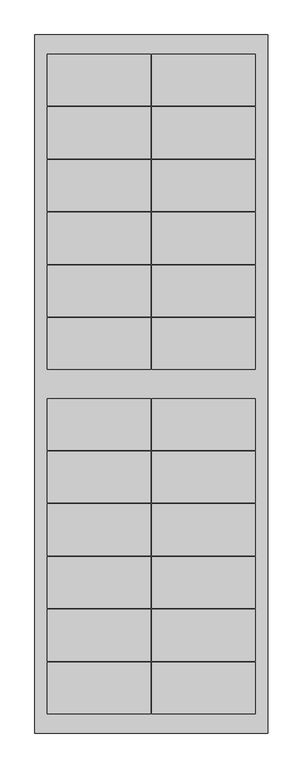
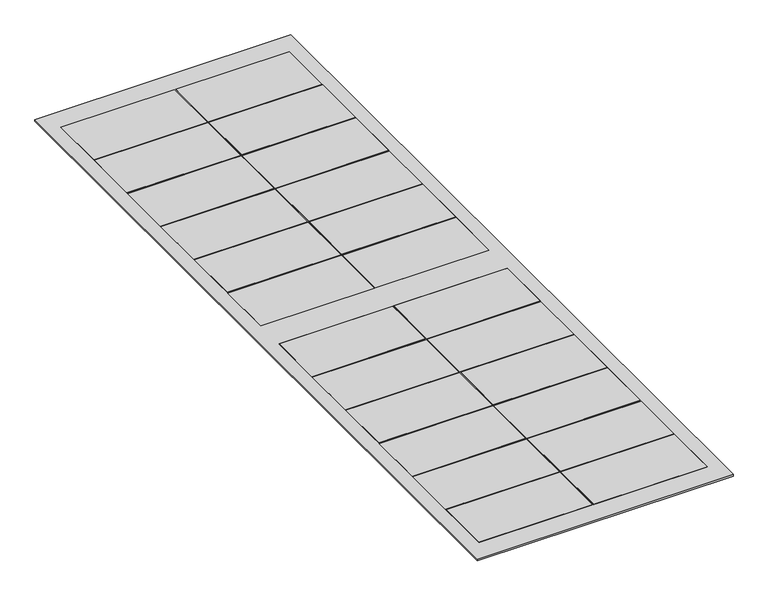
"""IFC4 building model written with IfcOpenShell, lengths in millimetres: proxy geometry, Construction-Roof_Roofit-Solar_nu-click-t-2x12-120-sg : NuClick T-2x12/120 Snowguard."""

from ifc_helpers import new_model, si_unit, origin, origin_with_axes, place, context, project, spatial, polyline, outline, extrude, source, transform, mapped, element, save


def specialty_equipment_3c02a545(model_context):
    return source(origin(), model_context, "Body", "SweptSolid", [
        extrude(outline(polyline([(-211.2, 564.5), (-211.2, 669.5), (-1.0, 669.5), (-1.0, 564.5), (-211.2, 564.5)])), origin_with_axes(), (0.0, 0.0, 1.0), 3.2),
        extrude(outline(polyline([(1.0, 564.5), (1.0, 669.5), (211.2, 669.5), (211.2, 564.5), (1.0, 564.5)])), origin_with_axes(), (0.0, 0.0, 1.0), 3.2),
        extrude(outline(polyline([(-1.0, 562.5), (-1.0, 457.5), (-211.2, 457.5), (-211.2, 562.5), (-1.0, 562.5)])), origin_with_axes(), (0.0, 0.0, 1.0), 3.2),
        extrude(outline(polyline([(211.2, 562.5), (211.2, 457.5), (1.0, 457.5), (1.0, 562.5), (211.2, 562.5)])), origin_with_axes(), (0.0, 0.0, 1.0), 3.2),
        extrude(outline(polyline([(-211.2, 350.5), (-211.2, 455.5), (-1.0, 455.5), (-1.0, 350.5), (-211.2, 350.5)])), origin_with_axes(), (0.0, 0.0, 1.0), 3.2),
        extrude(outline(polyline([(1.0, 350.5), (1.0, 455.5), (211.2, 455.5), (211.2, 350.5), (1.0, 350.5)])), origin_with_axes(), (0.0, 0.0, 1.0), 3.2),
        extrude(outline(polyline([(-1.0, 348.5), (-1.0, 243.5), (-211.2, 243.5), (-211.2, 348.5), (-1.0, 348.5)])), origin_with_axes(), (0.0, 0.0, 1.0), 3.2),
        extrude(outline(polyline([(211.2, 348.5), (211.2, 243.5), (1.0, 243.5), (1.0, 348.5), (211.2, 348.5)])), origin_with_axes(), (0.0, 0.0, 1.0), 3.2),
        extrude(outline(polyline([(-1.0, 241.5), (-1.0, 136.5), (-211.2, 136.5), (-211.2, 241.5), (-1.0, 241.5)])), origin_with_axes(), (0.0, 0.0, 1.0), 3.2),
        extrude(outline(polyline([(211.2, 241.5), (211.2, 136.5), (1.0, 136.5), (1.0, 241.5), (211.2, 241.5)])), origin_with_axes(), (0.0, 0.0, 1.0), 3.2),
        extrude(outline(polyline([(211.2, 134.5), (211.2, 29.5), (1.0, 29.5), (1.0, 134.5), (211.2, 134.5)])), origin_with_axes(), (0.0, 0.0, 1.0), 3.2),
        extrude(outline(polyline([(-1.0, 134.5), (-1.0, 29.5), (-211.2, 29.5), (-211.2, 134.5), (-1.0, 134.5)])), origin_with_axes(), (0.0, 0.0, 1.0), 3.2),
        extrude(outline(polyline([(-1.0, -29.5), (-1.0, -134.5), (-211.2, -134.5), (-211.2, -29.5), (-1.0, -29.5)])), origin_with_axes(), (0.0, 0.0, 1.0), 3.2),
        extrude(outline(polyline([(211.2, -29.5), (211.2, -134.5), (1.0, -134.5), (1.0, -29.5), (211.2, -29.5)])), origin_with_axes(), (0.0, 0.0, 1.0), 3.2),
        extrude(outline(polyline([(-1.0, -136.5), (-1.0, -241.5), (-211.2, -241.5), (-211.2, -136.5), (-1.0, -136.5)])), origin_with_axes(), (0.0, 0.0, 1.0), 3.2),
        extrude(outline(polyline([(211.2, -136.5), (211.2, -241.5), (1.0, -241.5), (1.0, -136.5), (211.2, -136.5)])), origin_with_axes(), (0.0, 0.0, 1.0), 3.2),
        extrude(outline(polyline([(-1.0, -243.5), (-1.0, -348.5), (-211.2, -348.5), (-211.2, -243.5), (-1.0, -243.5)])), origin_with_axes(), (0.0, 0.0, 1.0), 3.2),
        extrude(outline(polyline([(211.2, -243.5), (211.2, -348.5), (1.0, -348.5), (1.0, -243.5), (211.2, -243.5)])), origin_with_axes(), (0.0, 0.0, 1.0), 3.2),
        extrude(outline(polyline([(-1.0, -350.5), (-1.0, -455.5), (-211.2, -455.5), (-211.2, -350.5), (-1.0, -350.5)])), origin_with_axes(), (0.0, 0.0, 1.0), 3.2),
        extrude(outline(polyline([(211.2, -350.5), (211.2, -455.5), (1.0, -455.5), (1.0, -350.5), (211.2, -350.5)])), origin_with_axes(), (0.0, 0.0, 1.0), 3.2),
        extrude(outline(polyline([(-1.0, -457.5), (-1.0, -562.5), (-211.2, -562.5), (-211.2, -457.5), (-1.0, -457.5)])), origin_with_axes(), (0.0, 0.0, 1.0), 3.2),
        extrude(outline(polyline([(211.2, -457.5), (211.2, -562.5), (1.0, -562.5), (1.0, -457.5), (211.2, -457.5)])), origin_with_axes(), (0.0, 0.0, 1.0), 3.2),
        extrude(outline(polyline([(-1.0, -564.5), (-1.0, -669.5), (-211.2, -669.5), (-211.2, -564.5), (-1.0, -564.5)])), origin_with_axes(), (0.0, 0.0, 1.0), 3.2),
        extrude(outline(polyline([(211.2, -564.5), (211.2, -669.5), (1.0, -669.5), (1.0, -564.5), (211.2, -564.5)])), origin_with_axes(), (0.0, 0.0, 1.0), 3.2),
        extrude(outline(polyline([(236.5, 708.5), (236.5, -708.5), (-236.5, -708.5), (-236.5, 708.5), (236.5, 708.5)]), holes=[polyline([(1.0, 564.5), (211.2, 564.5), (211.2, 669.5), (1.0, 669.5), (1.0, 564.5)]), polyline([(-1.0, 669.5), (-211.2, 669.5), (-211.2, 564.5), (-1.0, 564.5), (-1.0, 669.5)]), polyline([(1.0, 457.5), (211.2, 457.5), (211.2, 562.5), (1.0, 562.5), (1.0, 457.5)]), polyline([(-1.0, 562.5), (-211.2, 562.5), (-211.2, 457.5), (-1.0, 457.5), (-1.0, 562.5)]), polyline([(1.0, 350.5), (211.2, 350.5), (211.2, 455.5), (1.0, 455.5), (1.0, 350.5)]), polyline([(-1.0, 455.5), (-211.2, 455.5), (-211.2, 350.5), (-1.0, 350.5), (-1.0, 455.5)]), polyline([(1.0, 243.5), (211.2, 243.5), (211.2, 348.5), (1.0, 348.5), (1.0, 243.5)]), polyline([(-1.0, 348.5), (-211.2, 348.5), (-211.2, 243.5), (-1.0, 243.5), (-1.0, 348.5)]), polyline([(1.0, 136.5), (211.2, 136.5), (211.2, 241.5), (1.0, 241.5), (1.0, 136.5)]), polyline([(-1.0, 241.5), (-211.2, 241.5), (-211.2, 136.5), (-1.0, 136.5), (-1.0, 241.5)]), polyline([(1.0, 29.5), (211.2, 29.5), (211.2, 134.5), (1.0, 134.5), (1.0, 29.5)]), polyline([(-1.0, 134.5), (-211.2, 134.5), (-211.2, 29.5), (-1.0, 29.5), (-1.0, 134.5)]), polyline([(-1.0, -29.5), (-211.2, -29.5), (-211.2, -134.5), (-1.0, -134.5), (-1.0, -29.5)]), polyline([(1.0, -134.5), (211.2, -134.5), (211.2, -29.5), (1.0, -29.5), (1.0, -134.5)]), polyline([(-1.0, -136.5), (-211.2, -136.5), (-211.2, -241.5), (-1.0, -241.5), (-1.0, -136.5)]), polyline([(1.0, -241.5), (211.2, -241.5), (211.2, -136.5), (1.0, -136.5), (1.0, -241.5)]), polyline([(-1.0, -243.5), (-211.2, -243.5), (-211.2, -348.5), (-1.0, -348.5), (-1.0, -243.5)]), polyline([(1.0, -348.5), (211.2, -348.5), (211.2, -243.5), (1.0, -243.5), (1.0, -348.5)]), polyline([(-1.0, -350.5), (-211.2, -350.5), (-211.2, -455.5), (-1.0, -455.5), (-1.0, -350.5)]), polyline([(1.0, -455.5), (211.2, -455.5), (211.2, -350.5), (1.0, -350.5), (1.0, -455.5)]), polyline([(-1.0, -457.5), (-211.2, -457.5), (-211.2, -562.5), (-1.0, -562.5), (-1.0, -457.5)]), polyline([(1.0, -562.5), (211.2, -562.5), (211.2, -457.5), (1.0, -457.5), (1.0, -562.5)]), polyline([(-1.0, -564.5), (-211.2, -564.5), (-211.2, -669.5), (-1.0, -669.5), (-1.0, -564.5)]), polyline([(1.0, -669.5), (211.2, -669.5), (211.2, -564.5), (1.0, -564.5), (1.0, -669.5)])]), origin_with_axes(), (0.0, 0.0, 1.0), 3.2),
    ])


if __name__ == "__main__":
    model = new_model("IFC4")
    model_context = context("Model", 3, world=origin())
    ifc_project = project(units=[si_unit("LENGTHUNIT", "METRE", prefix="MILLI")], contexts=[model_context])
    site = spatial("IfcSite", under=ifc_project)
    building = spatial("IfcBuilding", under=site)
    placement = place(None, origin())
    specialty_equipment_shape = specialty_equipment_3c02a545(model_context)
    element("IfcBuildingElementProxy", 1, Name="Construction-Roof_Roofit-Solar_nu-click-t-2x12-120-sg : NuClick T-2x12/120 Snowguard", ObjectType="Construction-Roof_Roofit-Solar_nu-click-t-2x12-120-sg : NuClick T-2x12/120 Snowguard", at=placement, inside=building, context=model_context, shape_type="MappedRepresentation", body=[
        mapped(specialty_equipment_shape, transform((0.0, 0.0, 0.0), x_axis=(1.0, 0.0, 0.0), y_axis=(0.0, 1.0, 0.0), z_axis=(0.0, 0.0, 1.0))),
    ])
    save(model, "model.ifc")
